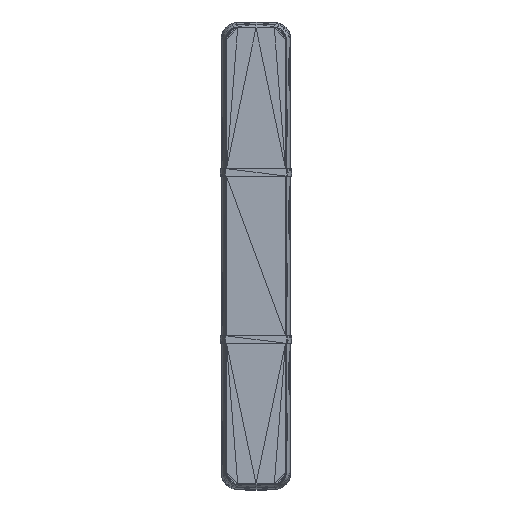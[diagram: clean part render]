
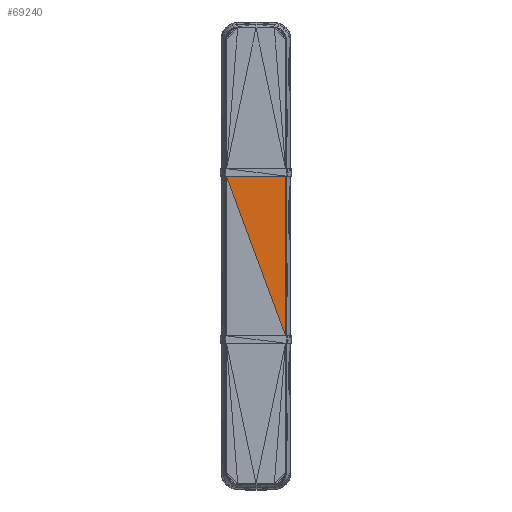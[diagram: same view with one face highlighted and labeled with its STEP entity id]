
A CAD part, top view. The second image highlights one B-rep face of the part: STEP entity #69240.
In plain terms, the highlighted planar face has unit normal (0, 0, 1).
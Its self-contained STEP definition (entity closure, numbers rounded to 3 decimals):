
#66224 = VERTEX_POINT('',#66225);
#66225 = CARTESIAN_POINT('',(233.984,942.,
    65.5));
#66315 = PLANE('',#66316);
#66316 = AXIS2_PLACEMENT_3D('',#66317,#66318,#66319);
#66317 = CARTESIAN_POINT('',(321.19,942.,
    66.262));
#66318 = DIRECTION('',(0.,-1.,0.));
#66319 = DIRECTION('',(0.,0.,-1.));
#66330 = VERTEX_POINT('',#66331);
#66331 = CARTESIAN_POINT('',(411.157,942.,
    65.5));
#66352 = EDGE_CURVE('',#66224,#66330,#66353,.T.);
#66353 = SURFACE_CURVE('',#66354,(#66358,#66365),.PCURVE_S1.);
#66354 = LINE('',#66355,#66356);
#66355 = CARTESIAN_POINT('',(233.984,942.,
    65.5));
#66356 = VECTOR('',#66357,1.);
#66357 = DIRECTION('',(1.,0.,0.));
#66358 = PCURVE('',#66315,#66359);
#66359 = DEFINITIONAL_REPRESENTATION('',(#66360),#66364);
#66360 = LINE('',#66361,#66362);
#66361 = CARTESIAN_POINT('',(0.762,-87.206));
#66362 = VECTOR('',#66363,1.);
#66363 = DIRECTION('',(0.,1.));
#66364 = ( GEOMETRIC_REPRESENTATION_CONTEXT(2) 
PARAMETRIC_REPRESENTATION_CONTEXT() REPRESENTATION_CONTEXT('2D SPACE',''
  ) );
#66365 = PCURVE('',#66366,#66371);
#66366 = PLANE('',#66367);
#66367 = AXIS2_PLACEMENT_3D('',#66368,#66369,#66370);
#66368 = CARTESIAN_POINT('',(358.934,738.864,
    65.5));
#66369 = DIRECTION('',(0.,0.,1.));
#66370 = DIRECTION('',(1.,0.,0.));
#66371 = DEFINITIONAL_REPRESENTATION('',(#66372),#66375);
#66372 = B_SPLINE_CURVE_WITH_KNOTS('',1,(#66373,#66374),.UNSPECIFIED.,
  .F.,.F.,(2,2),(0.,177.173),.PIECEWISE_BEZIER_KNOTS.);
#66373 = CARTESIAN_POINT('',(-124.951,203.136));
#66374 = CARTESIAN_POINT('',(52.222,203.136));
#66375 = ( GEOMETRIC_REPRESENTATION_CONTEXT(2) 
PARAMETRIC_REPRESENTATION_CONTEXT() REPRESENTATION_CONTEXT('2D SPACE',''
  ) );
#68960 = PLANE('',#68961);
#68961 = AXIS2_PLACEMENT_3D('',#68962,#68963,#68964);
#68962 = CARTESIAN_POINT('',(411.315,702.341,
    65.483));
#68963 = DIRECTION('',(0.106,0.,
    0.994));
#68964 = DIRECTION('',(0.994,0.,
    -0.106));
#68977 = VERTEX_POINT('',#68978);
#68978 = CARTESIAN_POINT('',(411.157,463.,
    65.5));
#69004 = EDGE_CURVE('',#66330,#68977,#69005,.T.);
#69005 = SURFACE_CURVE('',#69006,(#69010,#69017),.PCURVE_S1.);
#69006 = LINE('',#69007,#69008);
#69007 = CARTESIAN_POINT('',(411.157,942.,
    65.5));
#69008 = VECTOR('',#69009,1.);
#69009 = DIRECTION('',(0.,-1.,0.));
#69010 = PCURVE('',#68960,#69011);
#69011 = DEFINITIONAL_REPRESENTATION('',(#69012),#69016);
#69012 = LINE('',#69013,#69014);
#69013 = CARTESIAN_POINT('',(-0.16,239.659));
#69014 = VECTOR('',#69015,1.);
#69015 = DIRECTION('',(0.,-1.));
#69016 = ( GEOMETRIC_REPRESENTATION_CONTEXT(2) 
PARAMETRIC_REPRESENTATION_CONTEXT() REPRESENTATION_CONTEXT('2D SPACE',''
  ) );
#69017 = PCURVE('',#66366,#69018);
#69018 = DEFINITIONAL_REPRESENTATION('',(#69019),#69022);
#69019 = B_SPLINE_CURVE_WITH_KNOTS('',1,(#69020,#69021),.UNSPECIFIED.,
  .F.,.F.,(2,2),(0.,479.),.PIECEWISE_BEZIER_KNOTS.);
#69020 = CARTESIAN_POINT('',(52.222,203.136));
#69021 = CARTESIAN_POINT('',(52.222,-275.864));
#69022 = ( GEOMETRIC_REPRESENTATION_CONTEXT(2) 
PARAMETRIC_REPRESENTATION_CONTEXT() REPRESENTATION_CONTEXT('2D SPACE',''
  ) );
#69240 = ADVANCED_FACE('',(#69241),#66366,.T.);
#69241 = FACE_BOUND('',#69242,.T.);
#69242 = EDGE_LOOP('',(#69243,#69244,#69245));
#69243 = ORIENTED_EDGE('',*,*,#69004,.F.);
#69244 = ORIENTED_EDGE('',*,*,#66352,.F.);
#69245 = ORIENTED_EDGE('',*,*,#69246,.T.);
#69246 = EDGE_CURVE('',#66224,#68977,#69247,.T.);
#69247 = SURFACE_CURVE('',#69248,(#69252,#69259),.PCURVE_S1.);
#69248 = LINE('',#69249,#69250);
#69249 = CARTESIAN_POINT('',(233.984,942.,
    65.5));
#69250 = VECTOR('',#69251,1.);
#69251 = DIRECTION('',(0.347,-0.938,0.));
#69252 = PCURVE('',#66366,#69253);
#69253 = DEFINITIONAL_REPRESENTATION('',(#69254),#69258);
#69254 = LINE('',#69255,#69256);
#69255 = CARTESIAN_POINT('',(-124.951,203.136));
#69256 = VECTOR('',#69257,1.);
#69257 = DIRECTION('',(0.347,-0.938));
#69258 = ( GEOMETRIC_REPRESENTATION_CONTEXT(2) 
PARAMETRIC_REPRESENTATION_CONTEXT() REPRESENTATION_CONTEXT('2D SPACE',''
  ) );
#69259 = PCURVE('',#69260,#69265);
#69260 = PLANE('',#69261);
#69261 = AXIS2_PLACEMENT_3D('',#69262,#69263,#69264);
#69262 = CARTESIAN_POINT('',(286.206,666.136,
    65.5));
#69263 = DIRECTION('',(0.,0.,1.));
#69264 = DIRECTION('',(1.,0.,0.));
#69265 = DEFINITIONAL_REPRESENTATION('',(#69266),#69269);
#69266 = B_SPLINE_CURVE_WITH_KNOTS('',1,(#69267,#69268),.UNSPECIFIED.,
  .F.,.F.,(2,2),(0.,510.716),.PIECEWISE_BEZIER_KNOTS.);
#69267 = CARTESIAN_POINT('',(-52.222,275.864));
#69268 = CARTESIAN_POINT('',(124.951,-203.136));
#69269 = ( GEOMETRIC_REPRESENTATION_CONTEXT(2) 
PARAMETRIC_REPRESENTATION_CONTEXT() REPRESENTATION_CONTEXT('2D SPACE',''
  ) );
